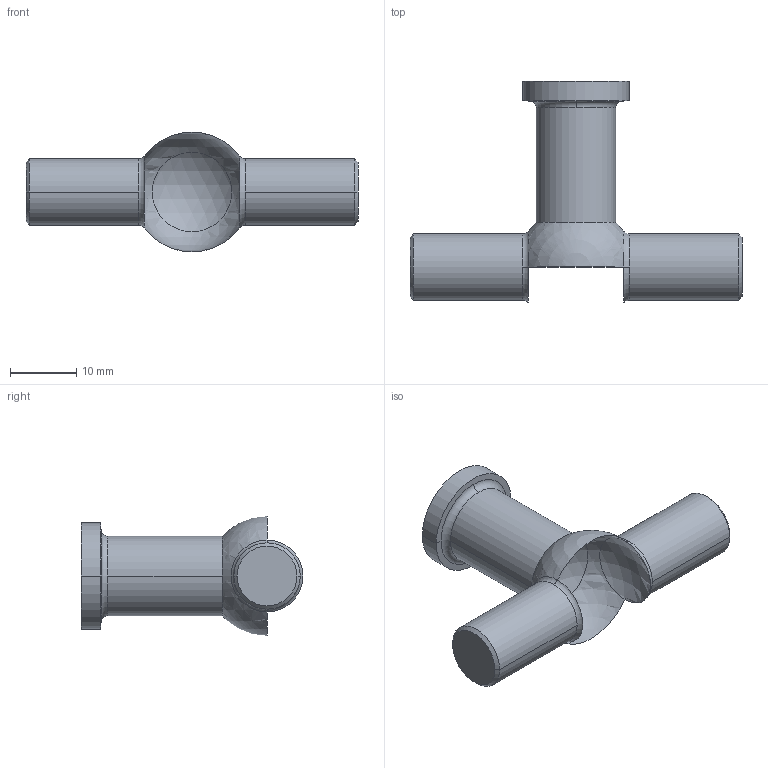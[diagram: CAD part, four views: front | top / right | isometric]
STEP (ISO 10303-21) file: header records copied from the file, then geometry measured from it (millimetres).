
FILE_DESCRIPTION( ( '' ), '1' );
FILE_NAME( 'C:/Documents and Settings/Nikhil/Desktop/Nik/Done/9113293.stp', '2013-10-24T05:14:37', ( '' ), ( '' ), ' ', ' ', ' ' );
FILE_SCHEMA( ( 'automotive_design' ) );
Length unit declared in the file: millimetre
Products named in the file (1): 1
Bounding box: 50 x 33.4 x 18 mm (x, y, z)
Volume: 5041.1 mm3; surface area: 3391.1 mm2
Topology: 1 solids, 1 shells, 28 faces, 70 edges, 42 vertices
Faces by surface type: cylinder 10, cone 6, torus 6, plane 4, sphere 2
Entity records: 1620 total; most frequent: DIRECTION 174, STYLED_ITEM 137, PRESENTATION_STYLE_ASSIGNMENT 137, CARTESIAN_POINT 137, COLOUR_RGB 137, ORIENTED_EDGE 132, AXIS2_PLACEMENT_3D 79, EDGE_CURVE 66
